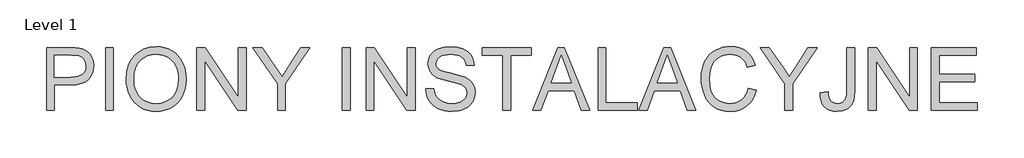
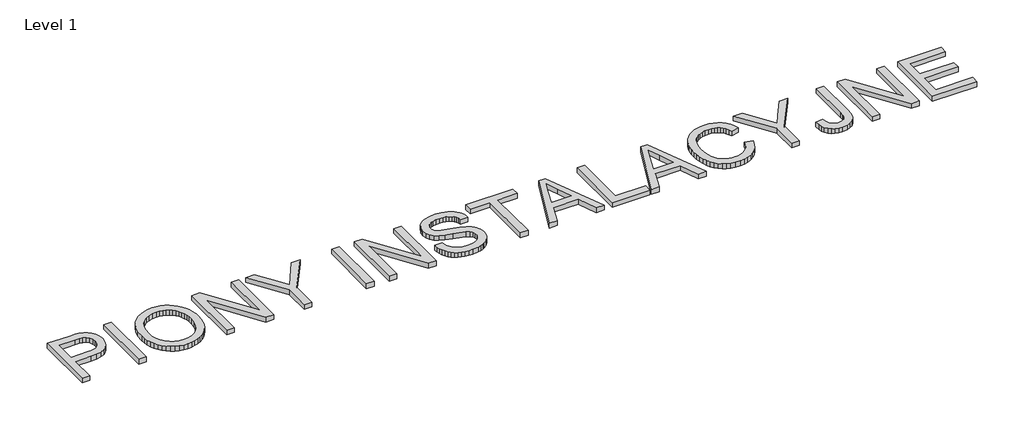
# One storey, part 2 of 4: 1 proxy.
"""IFC4 building model written with IfcOpenShell, lengths in millimetres."""

from ifc_helpers import new_model, si_unit, origin, origin_with_axes, place, context, project, spatial, polyline, outline, extrude, element, save

model = new_model("IFC4")

# Units and contexts
model_context = context("Model", 3, world=origin())
ifc_project = project(units=[si_unit("LENGTHUNIT", "METRE", prefix="MILLI")], contexts=[model_context])

# Site, building, storey
site = spatial("IfcSite", under=ifc_project)
building = spatial("IfcBuilding", under=site)
storey = spatial("IfcBuildingStorey", under=building, Name="Level 1", Elevation=0.0)

# Proxy
placement = place(None, origin())
element("IfcBuildingElementProxy", 1, Name="600mm Arial", ObjectType="600mm Arial", at=placement, inside=storey, context=model_context, shape_type="SweptSolid", body=[
    extrude(outline(polyline([(-1970.2270431, -16757.2810645), (-1970.2270431, -16154.5432036), (-1746.8490957, -16154.5432036), (-1694.8305815, -16155.9779434), (-1656.7915832, -16160.2821627), (-1616.6372635, -16171.0059229), (-1583.5830662, -16188.4619235), (-1556.9668039, -16213.441111), (-1536.1262888, -16246.7344316), (-1522.6618078, -16286.0058346), (-1518.1736475, -16328.9192693), (-1521.2040754, -16365.919001), (-1530.2953592, -16399.9572826), (-1545.4474989, -16431.0341141), (-1566.6604944, -16459.1494956), (-1595.7829529, -16482.45482), (-1634.6634812, -16499.1014803), (-1683.3020795, -16509.0894764), (-1741.6987477, -16512.4188085), (-1894.8848105, -16512.4188085), (-1894.8848105, -16757.2810645), (-1970.2270431, -16757.2810645)]), holes=[polyline([(-1894.8848105, -16437.0765759), (-1737.2841638, -16437.0765759), (-1701.0477873, -16435.3475305), (-1670.4767935, -16430.1603944), (-1645.5711824, -16421.5151675), (-1626.330954, -16409.4118498), (-1611.9743592, -16394.1723382), (-1601.7196486, -16376.1185293), (-1595.5668222, -16355.2504231), (-1593.5158801, -16331.5680197), (-1598.3535283, -16297.7228761), (-1612.866473, -16269.1752333), (-1635.2520924, -16247.6909248), (-1663.7077648, -16235.0357841), (-1692.7704424, -16231.1730232), (-1739.0499974, -16229.8854362), (-1894.8848105, -16229.8854362), (-1894.8848105, -16437.0765759)])]), origin_with_axes(), (0.0, 0.0, 1.0), 50.0),
    extrude(outline(polyline([(-1405.1602985, -16757.2810645), (-1405.1602985, -16154.5432036), (-1329.8180659, -16154.5432036), (-1329.8180659, -16757.2810645), (-1405.1602985, -16757.2810645)])), origin_with_axes(), (0.0, 0.0, 1.0), 50.0),
    extrude(outline(polyline([(-1207.3869379, -16463.8583851), (-1202.3653487, -16393.1606627), (-1187.300581, -16330.5747383), (-1162.1926348, -16276.1006118), (-1145.8724698, -16251.9054729), (-1127.0415102, -16229.7382834), (-1083.9533315, -16192.7201576), (-1035.0342232, -16166.2786392), (-980.2841853, -16150.4137282), (-919.7032177, -16145.1254245), (-879.1534248, -16147.608628), (-840.6453769, -16155.0582384), (-804.1790742, -16167.4742557), (-769.7545165, -16184.85668), (-738.3373941, -16206.6812793), (-710.8933972, -16232.423822), (-687.422526, -16262.0843078), (-667.9247802, -16295.6627369), (-652.6024951, -16332.3957541), (-641.6580058, -16371.5200043), (-635.0913121, -16413.0354875), (-632.9024143, -16456.9422036), (-635.2062753, -16501.4283339), (-642.1178582, -16543.5048371), (-653.6371632, -16583.1717132), (-669.7641902, -16620.4289623), (-690.1172616, -16654.2924999), (-714.3146998, -16683.7782418), (-742.3565049, -16708.886188), (-774.2426768, -16729.6163384), (-808.7178183, -16745.8399344), (-844.526532, -16757.4282173), (-881.6688179, -16764.381187), (-920.1446761, -16766.6988436), (-961.4026419, -16764.1374652), (-1000.4165275, -16756.45333), (-1037.1863329, -16743.646438), (-1071.7120581, -16725.7167893), (-1103.0923923, -16703.358761), (-1130.4260245, -16677.2667305), (-1153.7129548, -16647.4406978), (-1172.9531832, -16613.8806628), (-1188.0179509, -16577.9339933), (-1198.7784993, -16540.9480572), (-1205.2348283, -16502.9228545), (-1207.3869379, -16463.8583851)]), holes=[polyline([(-1132.0447053, -16464.5941491), (-1128.2785134, -16514.543327), (-1116.9799376, -16558.8823045), (-1098.148978, -16597.6110815), (-1071.7856345, -16630.7296581), (-1039.7385142, -16657.25395), (-1003.8562241, -16676.1998727), (-964.1387642, -16687.5674264), (-920.5861345, -16691.3566109), (-876.2885438, -16687.5306382), (-836.1020343, -16676.0527199), (-800.0266062, -16656.9228562), (-768.0622593, -16630.1410469), (-741.8920539, -16596.3234945), (-723.19905, -16556.0864013), (-711.9832477, -16509.4297673), (-708.2446469, -16456.3535924), (-709.8449336, -16421.8738524), (-714.6457936, -16389.6565867), (-722.647227, -16359.7017952), (-733.8492337, -16332.0094781), (-748.1276537, -16306.9429186), (-765.3583266, -16284.8654004), (-785.5412526, -16265.7769233), (-808.6764316, -16249.6774875), (-834.0464937, -16236.8981867), (-860.934069, -16227.7701147), (-889.3391575, -16222.2932715), (-919.2617593, -16220.4676571), (-961.3014743, -16223.9855287), (-1000.3061629, -16234.5391434), (-1036.2758249, -16252.1285013), (-1069.2104605, -16276.7536024), (-1096.7004426, -16309.600866), (-1116.3361441, -16351.8567117), (-1128.117565, -16403.5211394), (-1132.0447053, -16464.5941491)])]), origin_with_axes(), (0.0, 0.0, 1.0), 50.0),
    extrude(outline(polyline([(-529.3068444, -16757.2810645), (-529.3068444, -16154.5432036), (-448.6671111, -16154.5432036), (-133.7601232, -16632.0540333), (-133.7601232, -16154.5432036), (-58.4178906, -16154.5432036), (-58.4178906, -16757.2810645), (-139.0576239, -16757.2810645), (-453.9646118, -16279.6230819), (-453.9646118, -16757.2810645), (-529.3068444, -16757.2810645)])), origin_with_axes(), (0.0, 0.0, 1.0), 50.0),
    extrude(outline(polyline([(242.9510398, -16757.2810645), (242.9510398, -16501.9709598), (7.5065629, -16154.5432036), (96.386853, -16154.5432036), (222.0553425, -16340.1028819), (286.3611153, -16434.7221311), (350.8140408, -16333.3338532), (464.8574593, -16154.5432036), (553.7377494, -16154.5432036), (318.2932725, -16501.9709598), (318.2932725, -16757.2810645), (242.9510398, -16757.2810645)])), origin_with_axes(), (0.0, 0.0, 1.0), 50.0),
    extrude(outline(polyline([(864.5244589, -16757.2810645), (864.5244589, -16154.5432036), (939.8666915, -16154.5432036), (939.8666915, -16757.2810645), (864.5244589, -16757.2810645)])), origin_with_axes(), (0.0, 0.0, 1.0), 50.0),
    extrude(outline(polyline([(1090.5511567, -16757.2810645), (1090.5511567, -16154.5432036), (1171.1908901, -16154.5432036), (1486.0978779, -16632.0540333), (1486.0978779, -16154.5432036), (1561.4401106, -16154.5432036), (1561.4401106, -16757.2810645), (1480.8003772, -16757.2810645), (1165.8933893, -16279.6230819), (1165.8933893, -16757.2810645), (1090.5511567, -16757.2810645)])), origin_with_axes(), (0.0, 0.0, 1.0), 50.0),
    extrude(outline(polyline([(1665.0356804, -16550.0899248), (1740.377913, -16550.0899248), (1749.0231399, -16591.8997135), (1764.6581247, -16625.5057338), (1789.048701, -16652.1771785), (1823.9607023, -16673.1832404), (1866.6350138, -16686.8132683), (1914.3125203, -16691.3566109), (1956.287856, -16687.9169143), (1993.0392673, -16677.5978243), (2022.8193148, -16661.2638637), (2043.880559, -16639.7795552), (2056.406941, -16615.1130674), (2060.5824016, -16589.2325691), (2057.4554047, -16564.0142583), (2048.0744138, -16542.2172501), (2029.0181264, -16523.6208152), (1996.8652401, -16508.0042245), (1887.1628291, -16479.2358525), (1815.1499285, -16460.1979593), (1769.0727086, -16442.079771), (1731.5671392, -16416.7327015), (1704.9876651, -16386.0145549), (1689.1503452, -16350.5875188), (1683.8712386, -16311.1137807), (1685.5037149, -16288.6775775), (1690.401144, -16266.9863354), (1698.5635257, -16246.0400543), (1709.9908602, -16225.8387342), (1724.5543887, -16207.2055112), (1742.1253525, -16190.9635211), (1762.7037516, -16177.112764), (1786.289586, -16165.6532398), (1839.3013815, -16150.2573783), (1897.9785597, -16145.1254245), (1961.5485685, -16150.4965016), (2017.1723262, -16166.609733), (2041.5077202, -16178.6118831), (2062.86327, -16193.1340249), (2081.2389756, -16210.1761583), (2096.6348371, -16229.7382834), (2108.9312928, -16251.2501831), (2118.0087811, -16274.1416402), (2123.8673018, -16298.4126548), (2126.5068552, -16324.063227), (2051.1646225, -16324.063227), (2046.1246392, -16300.0221386), (2037.3322595, -16279.1080471), (2024.7874835, -16261.3209527), (2008.4903111, -16246.6608552), (1988.1372397, -16235.201331), (1963.4247667, -16227.0159566), (1934.352892, -16222.104732), (1900.9216157, -16220.4676571), (1866.4234816, -16222.0863379), (1836.9469367, -16226.9423802), (1812.4919811, -16235.0357841), (1793.0586147, -16246.3665496), (1778.2513644, -16259.9873804), (1767.6747571, -16274.9509806), (1761.3287926, -16291.25735), (1759.2134712, -16308.9064888), (1760.7125903, -16324.0908181), (1765.2099477, -16337.8588018), (1772.7055433, -16350.2104398), (1783.1993773, -16361.1457321), (1799.7172788, -16371.5016102), (1825.7265359, -16381.967853), (1906.2191164, -16403.2314323), (1989.286871, -16423.4281539), (2039.5395515, -16441.0497014), (2082.4897744, -16468.3833337), (2099.095048, -16484.4505798), (2112.4537629, -16502.1181126), (2122.7222691, -16521.2939616), (2130.0569164, -16541.8861563), (2135.9246342, -16587.3195827), (2134.2369756, -16610.887023), (2129.1739996, -16633.7646846), (2120.7357064, -16655.9525674), (2108.9220958, -16677.4506715), (2093.9401015, -16697.4266639), (2075.9966572, -16715.0482114), (2055.0917628, -16730.3153142), (2031.2254184, -16743.2279723), (2005.0920012, -16753.4964785), (1977.3858884, -16760.8311257), (1917.2555763, -16766.6988436), (1878.7153388, -16765.116951), (1843.440054, -16760.3712732), (1811.4297219, -16752.4618103), (1782.6843425, -16741.3885623), (1757.0291718, -16727.133135), (1734.289466, -16709.6771343), (1714.465225, -16689.0205603), (1697.5564488, -16665.1634129), (1683.9356179, -16638.8782443), (1673.9752129, -16610.9376068), (1667.6752337, -16581.3415003), (1665.0356804, -16550.0899248)])), origin_with_axes(), (0.0, 0.0, 1.0), 50.0),
    extrude(outline(polyline([(2399.6224484, -16757.2810645), (2399.6224484, -16229.8854362), (2201.8490878, -16229.8854362), (2201.8490878, -16154.5432036), (2672.7380416, -16154.5432036), (2672.7380416, -16229.8854362), (2474.964681, -16229.8854362), (2474.964681, -16757.2810645), (2399.6224484, -16757.2810645)])), origin_with_axes(), (0.0, 0.0, 1.0), 50.0),
    extrude(outline(polyline([(2687.3061686, -16757.2810645), (2927.9009934, -16154.5432036), (2992.0596134, -16154.5432036), (3232.6544382, -16757.2810645), (3153.0447745, -16757.2810645), (3084.0301122, -16568.9254829), (2835.7833419, -16568.9254829), (2766.9158324, -16757.2810645), (2687.3061686, -16757.2810645)]), holes=[polyline([(2863.4480679, -16493.5832503), (3056.512539, -16493.5832503), (3002.2131565, -16345.4003827), (2959.9803034, -16229.8854362), (2922.4563399, -16332.4509364), (2863.4480679, -16493.5832503)])]), origin_with_axes(), (0.0, 0.0, 1.0), 50.0),
    extrude(outline(polyline([(3313.1470188, -16757.2810645), (3313.1470188, -16154.5432036), (3388.4892514, -16154.5432036), (3388.4892514, -16681.9388319), (3689.8581819, -16681.9388319), (3689.8581819, -16757.2810645), (3313.1470188, -16757.2810645)])), origin_with_axes(), (0.0, 0.0, 1.0), 50.0),
    extrude(outline(polyline([(3704.4263089, -16757.2810645), (3945.0211337, -16154.5432036), (4009.1797537, -16154.5432036), (4249.7745785, -16757.2810645), (4170.1649148, -16757.2810645), (4101.1502525, -16568.9254829), (3852.9034821, -16568.9254829), (3784.0359726, -16757.2810645), (3704.4263089, -16757.2810645)]), holes=[polyline([(3880.5682082, -16493.5832503), (4073.6326792, -16493.5832503), (4019.3332967, -16345.4003827), (3977.1004437, -16229.8854362), (3939.5764802, -16332.4509364), (3880.5682082, -16493.5832503)])]), origin_with_axes(), (0.0, 0.0, 1.0), 50.0),
    extrude(outline(polyline([(4754.0672175, -16543.0265905), (4829.4094501, -16562.4507598), (4814.5010323, -16609.3051304), (4794.6446016, -16650.245798), (4769.840158, -16685.2727624), (4740.0877017, -16714.3860238), (4706.0586171, -16737.2728825), (4668.424289, -16753.6206386), (4627.1847174, -16763.4292923), (4582.3399022, -16766.6988436), (4536.3960395, -16764.2248371), (4494.9495342, -16756.8028179), (4458.0003863, -16744.4327858), (4425.5485958, -16727.1147409), (4397.1481058, -16705.1062005), (4372.3528593, -16678.6646821), (4351.1628564, -16647.7901857), (4333.578097, -16612.4827112), (4319.7687266, -16574.2689689), (4309.9048906, -16534.6756692), (4303.986589, -16493.702812), (4302.0138218, -16451.3503973), (4304.2441064, -16405.9077738), (4310.9349602, -16363.4633886), (4322.0863832, -16324.0172417), (4337.6983754, -16287.569333), (4357.4214488, -16254.7220694), (4380.9061157, -16226.0778575), (4408.152376, -16201.6366975), (4439.1602296, -16181.3985892), (4472.8766145, -16165.5290797), (4508.2484683, -16154.1937157), (4545.2757911, -16147.3924973), (4583.9585829, -16145.1254245), (4627.0513601, -16148.0592834), (4666.566485, -16156.8608601), (4702.5039574, -16171.5301547), (4734.8637774, -16192.0671671), (4763.1125161, -16217.9292713), (4786.7167446, -16248.5738415), (4805.6764629, -16284.0008777), (4819.991671, -16324.2103798), (4744.6494384, -16342.1630211), (4732.7852441, -16312.5347249), (4718.5298168, -16287.2198451), (4701.8831565, -16266.2183817), (4682.8452632, -16249.5303347), (4661.3057724, -16236.8154133), (4637.1543194, -16227.7333265), (4610.3909043, -16222.2840745), (4581.015527, -16220.4676571), (4547.2163687, -16222.481811), (4516.305084, -16228.5242728), (4488.281673, -16238.5950424), (4463.1461357, -16252.6941199), (4441.2157703, -16270.1869088), (4422.8078749, -16290.4388126), (4407.9224497, -16313.4498314), (4396.5594946, -16339.2199652), (4382.1569145, -16394.3654762), (4377.3560544, -16451.2032445), (4383.0398313, -16520.806518), (4390.1445523, -16552.0764876), (4400.0911617, -16580.9920124), (4413.040608, -16606.9782768), (4429.1538394, -16629.4604653), (4448.4308559, -16648.4385777), (4470.8716576, -16663.9126141), (4495.3863941, -16675.9193627), (4520.8852149, -16684.4956117), (4547.36812, -16689.6413611), (4574.8351095, -16691.3566109), (4607.5904026, -16689.0205603), (4637.7245365, -16682.0124083), (4665.2375112, -16670.3321549), (4690.1293267, -16653.9798002), (4711.8113718, -16633.0289206), (4729.6950353, -16607.5530924), (4743.7803172, -16577.5523157), (4754.0672175, -16543.0265905)])), origin_with_axes(), (0.0, 0.0, 1.0), 50.0),
    extrude(outline(polyline([(5102.5250433, -16757.2810645), (5102.5250433, -16501.9709598), (4867.0805664, -16154.5432036), (4955.9608565, -16154.5432036), (5081.629346, -16340.1028819), (5145.9351188, -16434.7221311), (5210.3880443, -16333.3338532), (5324.4314628, -16154.5432036), (5413.3117529, -16154.5432036), (5177.8672759, -16501.9709598), (5177.8672759, -16757.2810645), (5102.5250433, -16757.2810645)])), origin_with_axes(), (0.0, 0.0, 1.0), 50.0),
    extrude(outline(polyline([(5441.5650901, -16588.0553467), (5516.9073227, -16578.343262), (5519.5652701, -16608.2980535), (5524.7432092, -16633.1208911), (5532.4411399, -16652.8117749), (5542.6590624, -16667.3707049), (5555.2406266, -16677.8645388), (5570.0294828, -16685.3601344), (5587.025631, -16689.8574918), (5606.2290711, -16691.3566109), (5634.0593441, -16687.9537025), (5657.8061269, -16677.7449771), (5676.1266502, -16661.6685339), (5687.6781449, -16640.662472), (5693.8033801, -16610.2570251), (5695.8451252, -16565.982427), (5695.8451252, -16154.5432036), (5771.1873578, -16154.5432036), (5771.1873578, -16564.6580518), (5766.6440151, -16631.7413336), (5760.9648368, -16658.8680322), (5753.0139872, -16681.7181027), (5742.5937297, -16701.2020528), (5729.5063277, -16718.2303907), (5713.7517813, -16732.8031162), (5695.3300904, -16744.9202294), (5652.4166556, -16761.25419), (5602.697404, -16766.6988436), (5565.5689136, -16763.8891448), (5533.0573423, -16755.4600486), (5505.16269, -16741.4115549), (5481.8849568, -16721.7436637), (5463.6380098, -16696.5299515), (5450.8357164, -16665.8439946), (5443.4780765, -16629.685793), (5441.5650901, -16588.0553467)])), origin_with_axes(), (0.0, 0.0, 1.0), 50.0),
    extrude(outline(polyline([(5903.0362648, -16757.2810645), (5903.0362648, -16154.5432036), (5983.6759982, -16154.5432036), (6298.5829861, -16632.0540333), (6298.5829861, -16154.5432036), (6373.9252187, -16154.5432036), (6373.9252187, -16757.2810645), (6293.2854853, -16757.2810645), (5978.3784975, -16279.6230819), (5978.3784975, -16757.2810645), (5903.0362648, -16757.2810645)])), origin_with_axes(), (0.0, 0.0, 1.0), 50.0),
    extrude(outline(polyline([(6505.7741257, -16757.2810645), (6505.7741257, -16154.5432036), (6938.9919633, -16154.5432036), (6938.9919633, -16229.8854362), (6581.1163583, -16229.8854362), (6581.1163583, -16408.8232386), (6920.1564051, -16408.8232386), (6920.1564051, -16484.1654713), (6581.1163583, -16484.1654713), (6581.1163583, -16681.9388319), (6948.4097423, -16681.9388319), (6948.4097423, -16757.2810645), (6505.7741257, -16757.2810645)])), origin_with_axes(), (0.0, 0.0, 1.0), 50.0),
])

save(model, "model.ifc")
